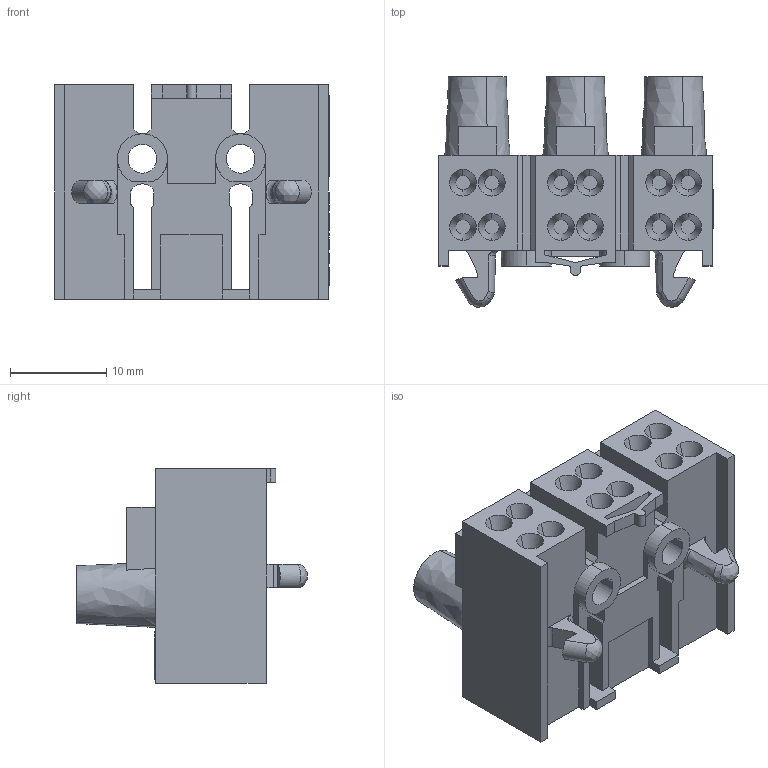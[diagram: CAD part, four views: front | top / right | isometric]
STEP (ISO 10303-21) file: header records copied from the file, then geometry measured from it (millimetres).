
FILE_DESCRIPTION((' '),'1');
FILE_NAME('00WYK01Y05.stp','2010-03-04 T13:33:25',(' '),(' '),'STEP Interface v1.0 by CT CoreTechnologie','3D_Evolution v1.0 by CT CoreTechnologie',' ');
FILE_SCHEMA(('CONFIG_CONTROL_DESIGN'));
Length unit declared in the file: millimetre
Products named in the file (1): 00WYK01Y05
Bounding box: 28.5 x 24 x 22.3 mm (x, y, z)
Volume: 6159.2 mm3; surface area: 4847.4 mm2
Topology: 1 solids, 1 shells, 409 faces, 1050 edges, 696 vertices
Faces by surface type: plane 281, bspline 64, cylinder 64
Entity records: 18904 total; most frequent: CARTESIAN_POINT 5262, ORIENTED_EDGE 2100, DIRECTION 1956, EDGE_CURVE 1050, VECTOR 772, LINE 772, VERTEX_POINT 696, AXIS2_PLACEMENT_3D 592
